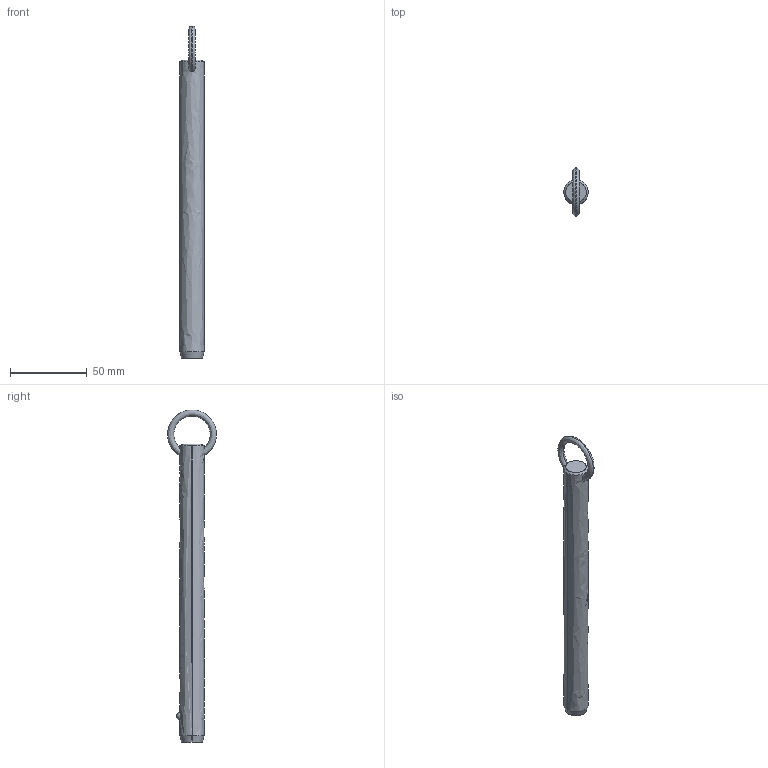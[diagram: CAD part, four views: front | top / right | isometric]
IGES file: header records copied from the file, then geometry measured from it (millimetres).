
Start section: SolidWorks IGES file using analytic representation for surfaces
Global section: file name: C:\Users\liam_\OneDrive\Documents\WORK\Work for WixRoyd\Job Files\J-00019 - Matt Davis CAD Checking\04. CAD Drawings\automotion20190605\P1250.2_v2\P1250.2_v2_20190729_IGES\P1250.062-650.igs; native system: SolidWorks 2017; preprocessor: SolidWorks 2017; author: liam_; date: 190729.234247; units: millimetre
Bounding box: 15.8 x 31.7 x 215.79 mm (x, y, z)
Surface area: 10783.6 mm2 (no closed solid volume)
Topology: 0 solids, 0 shells, 12 faces, 292 edges, 290 vertices
Faces by surface type: revolution 8, bspline 4
